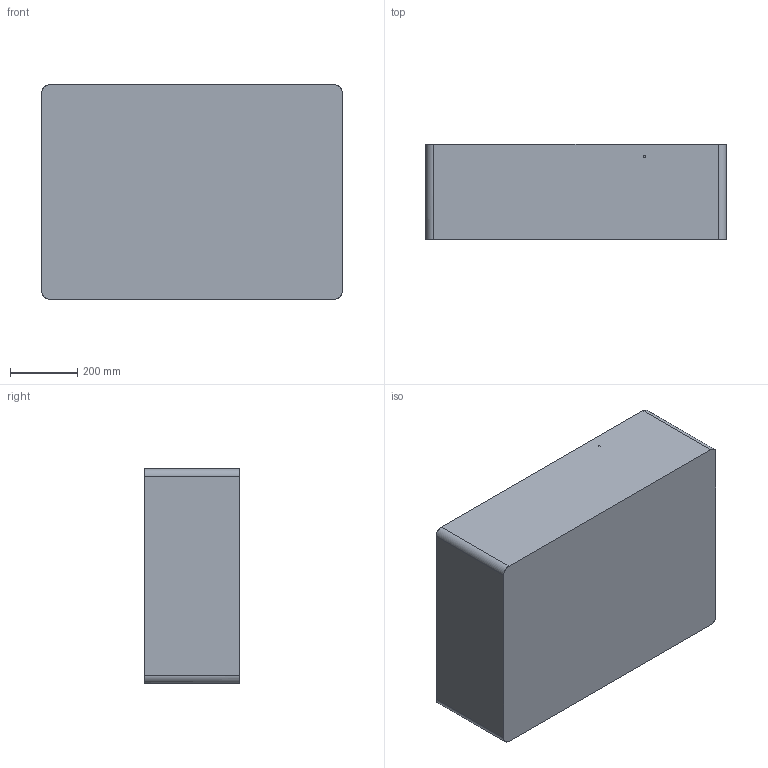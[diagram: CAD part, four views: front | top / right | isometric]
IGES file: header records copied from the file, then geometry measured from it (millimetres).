
Start section: SolidWorks IGES file using analytic representation for surfaces
Global section: file name: C:\Arnold\oem 1730\1730-CASE-BOT.IGS; native system: SolidWorks 2007; preprocessor: SolidWorks 2007; author: akameda; date: 080514.144910; units: inch
Bounding box: 890.21 x 283.21 x 636.21 mm (x, y, z)
Surface area: 2757148.3 mm2 (no closed solid volume)
Topology: 0 solids, 0 shells, 250 faces, 2756 edges, 2756 vertices
Faces by surface type: bspline 132, revolution 118
